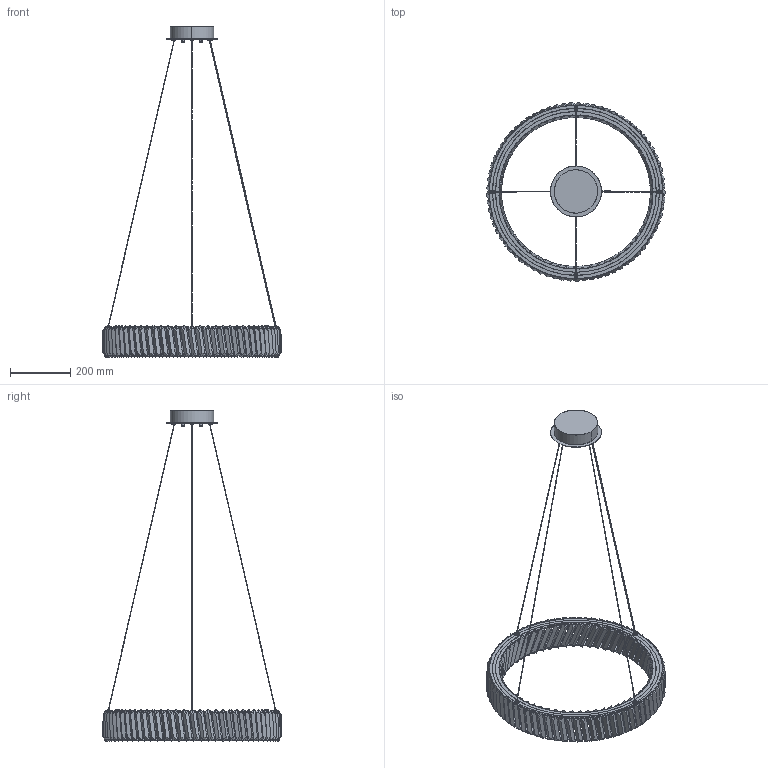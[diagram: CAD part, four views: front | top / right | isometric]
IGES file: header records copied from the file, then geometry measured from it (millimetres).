
Start section: SolidWorks IGES file using analytic representation for surfaces
Global section: file name: Y:\PRODUKT\Modele_3D_WWW\LUXORA\LUXORA zwis ma³y\LUXORA zwis ma³y.IGS; native system: SolidWorks 2024; preprocessor: SolidWorks 2024; author: anna.bielnik; date: 250227.105109; units: millimetre
Bounding box: 594.33 x 594.4 x 1099.64 mm (x, y, z)
Surface area: 975315 mm2 (no closed solid volume)
Topology: 0 solids, 0 shells, 1628 faces, 23506 edges, 23506 vertices
Faces by surface type: bspline 1006, revolution 622
